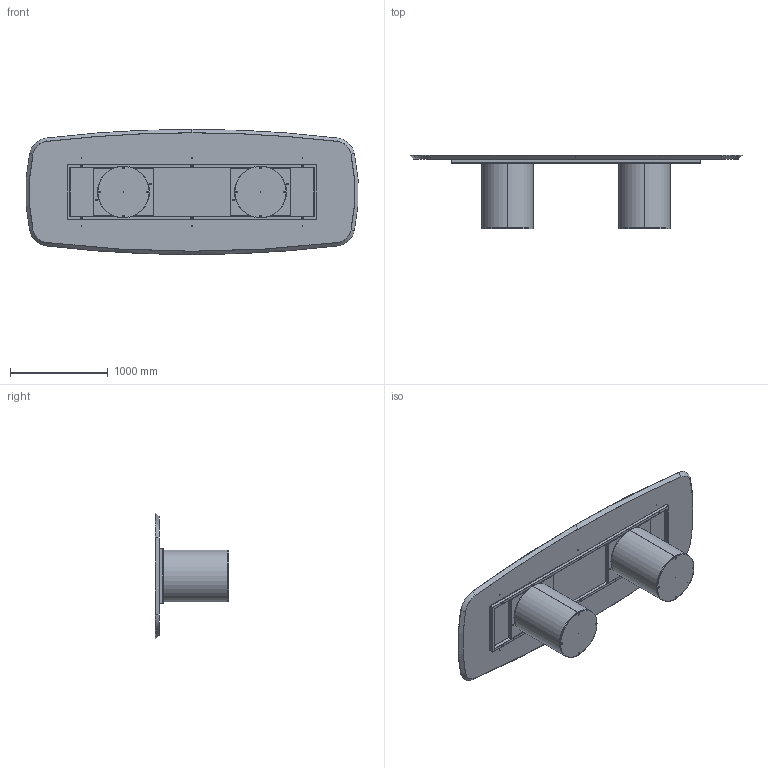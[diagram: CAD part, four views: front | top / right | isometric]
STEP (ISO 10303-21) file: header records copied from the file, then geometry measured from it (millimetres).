
FILE_DESCRIPTION (( 'STEP AP203' ), '1' );
FILE_NAME ('CI48W.STEP', '2024-08-08T07:14:21', ( '' ), ( '' ), 'SwSTEP 2.0', 'SolidWorks 2022', '' );
FILE_SCHEMA (( 'CONFIG_CONTROL_DESIGN' ));
Length unit declared in the file: millimetre
Products named in the file (13): C2B000000_01-00-struttura cilindro D.530mm; CI48W; TTAV03_01-06-RING TUBO TELAIO UNIVERSALE X TAVOLI 300-340cm; M8xXXmm_M8x20mm; W4XCMXX-00-Piani Sagomati legno_3400 x 1280; M8xXXmm_M8x55mm; C2B000000_02-01-ZAVORRA IN FERRO D.530mm; TTAV03_02-06-VASSOIO IRRIGIDIMENTO TELAIO UNIVERSALE RETTANGOLARE; rondella M8_8X24; TTAV03-06-TELAIO UNIVERSALE X TAVOLI 300-340cm; M8xXXmm_hex_M8X20mm; COLLO TELAIO UNIVERSALE TTAV03 CON FERRAMENTA_MTG TOP LEGNO-MARMO-KING; C2B000000-03-CILINDRO BASE D.530mm_Normale
Assembly tree (42 placements, depth 4):
  CI48W
    C2B000000-03-CILINDRO BASE D.530mm_Normale  x2
      C2B000000_01-00-struttura cilindro D.530mm
      C2B000000_02-01-ZAVORRA IN FERRO D.530mm
      M8xXXmm_hex_M8X20mm
    COLLO TELAIO UNIVERSALE TTAV03 CON FERRAMENTA_MTG TOP LEGNO-MARMO-KING
      TTAV03-06-TELAIO UNIVERSALE X TAVOLI 300-340cm
        TTAV03_01-06-RING TUBO TELAIO UNIVERSALE X TAVOLI 300-340cm
        TTAV03_02-06-VASSOIO IRRIGIDIMENTO TELAIO UNIVERSALE RETTANGOLARE  x2
      rondella M8_8X24  x6
      M8xXXmm_M8x55mm  x6
    rondella M8_8X24  x8
    M8xXXmm_M8x20mm  x8
    W4XCMXX-00-Piani Sagomati legno_3400 x 1280
Bounding box: 3390.78 x 748 x 1280 mm (x, y, z)
Volume: 162314387.4 mm3; surface area: 17282483.1 mm2
Topology: 50 solids, 50 shells, 1603 faces, 3604 edges, 2053 vertices
Faces by surface type: plane 634, cylinder 457, cone 283, torus 193, sphere 36
Entity records: 18003 total; most frequent: DIRECTION 2950, CARTESIAN_POINT 2779, ORIENTED_EDGE 2532, EDGE_CURVE 1266, AXIS2_PLACEMENT_3D 1137, VERTEX_POINT 762, LINE 676, VECTOR 676
